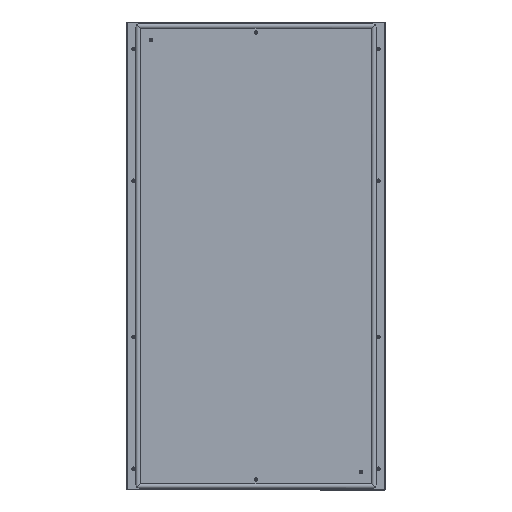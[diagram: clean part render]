
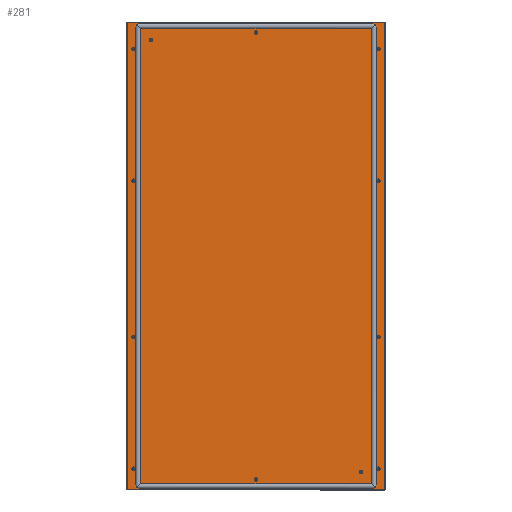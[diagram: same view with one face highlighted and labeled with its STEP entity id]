
A CAD part, top view. The second image highlights one B-rep face of the part: STEP entity #281.
In plain terms, the highlighted planar face has unit normal (0, 0, 1).
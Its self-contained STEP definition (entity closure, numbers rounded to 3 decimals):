
#281=ADVANCED_FACE('',(#1460,#1462,#1464,#1466,#1468,#1470,#1472,#1474,#1476,#1478,
#1480,#1482,#1484),#1486,.T.);
#1460=FACE_BOUND('',#1461,.T.);
#1461=EDGE_LOOP('',(#2761,#2762,#2763,#2764));
#1462=FACE_BOUND('',#1463,.T.);
#1463=EDGE_LOOP('',(#2765));
#1464=FACE_BOUND('',#1465,.T.);
#1465=EDGE_LOOP('',(#2766));
#1466=FACE_BOUND('',#1467,.T.);
#1467=EDGE_LOOP('',(#2767));
#1468=FACE_BOUND('',#1469,.T.);
#1469=EDGE_LOOP('',(#2768));
#1470=FACE_BOUND('',#1471,.T.);
#1471=EDGE_LOOP('',(#2769));
#1472=FACE_BOUND('',#1473,.T.);
#1473=EDGE_LOOP('',(#2770));
#1474=FACE_BOUND('',#1475,.T.);
#1475=EDGE_LOOP('',(#2771));
#1476=FACE_BOUND('',#1477,.T.);
#1477=EDGE_LOOP('',(#2772));
#1478=FACE_BOUND('',#1479,.T.);
#1479=EDGE_LOOP('',(#2773));
#1480=FACE_BOUND('',#1481,.T.);
#1481=EDGE_LOOP('',(#2774));
#1482=FACE_BOUND('',#1483,.T.);
#1483=EDGE_LOOP('',(#2775));
#1484=FACE_BOUND('',#1485,.T.);
#1485=EDGE_LOOP('',(#2776));
#1486=PLANE('',#1487);
#1487=AXIS2_PLACEMENT_3D('',#1488,#1489,#1490);
#1488=CARTESIAN_POINT('',(0.,0.,1.4));
#1489=DIRECTION('',(0.,0.,1.));
#1490=DIRECTION('',(1.,0.,0.));
#2761=ORIENTED_EDGE('',*,*,#3305,.F.);
#2762=ORIENTED_EDGE('',*,*,#3306,.F.);
#2763=ORIENTED_EDGE('',*,*,#3307,.F.);
#2764=ORIENTED_EDGE('',*,*,#3308,.F.);
#2765=ORIENTED_EDGE('',*,*,#3265,.F.);
#2766=ORIENTED_EDGE('',*,*,#3277,.F.);
#2767=ORIENTED_EDGE('',*,*,#3281,.F.);
#2768=ORIENTED_EDGE('',*,*,#3269,.F.);
#2769=ORIENTED_EDGE('',*,*,#3271,.F.);
#2770=ORIENTED_EDGE('',*,*,#3267,.F.);
#2771=ORIENTED_EDGE('',*,*,#3279,.F.);
#2772=ORIENTED_EDGE('',*,*,#3261,.F.);
#2773=ORIENTED_EDGE('',*,*,#3263,.F.);
#2774=ORIENTED_EDGE('',*,*,#3273,.F.);
#2775=ORIENTED_EDGE('',*,*,#3283,.F.);
#2776=ORIENTED_EDGE('',*,*,#3275,.F.);
#3261=EDGE_CURVE('',#3533,#3533,#3534,.T.);
#3263=EDGE_CURVE('',#3537,#3537,#3538,.T.);
#3265=EDGE_CURVE('',#3541,#3541,#3542,.T.);
#3267=EDGE_CURVE('',#3545,#3545,#3546,.T.);
#3269=EDGE_CURVE('',#3549,#3549,#3550,.T.);
#3271=EDGE_CURVE('',#3553,#3553,#3554,.T.);
#3273=EDGE_CURVE('',#3557,#3557,#3558,.T.);
#3275=EDGE_CURVE('',#3561,#3561,#3562,.T.);
#3277=EDGE_CURVE('',#3565,#3565,#3566,.T.);
#3279=EDGE_CURVE('',#3569,#3569,#3570,.T.);
#3281=EDGE_CURVE('',#3573,#3573,#3574,.T.);
#3283=EDGE_CURVE('',#3577,#3577,#3578,.T.);
#3305=EDGE_CURVE('',#3621,#3622,#3623,.T.);
#3306=EDGE_CURVE('',#3624,#3621,#3625,.T.);
#3307=EDGE_CURVE('',#3626,#3624,#3627,.T.);
#3308=EDGE_CURVE('',#3622,#3626,#3628,.T.);
#3533=VERTEX_POINT('',#3985);
#3534=CIRCLE('',#3986,0.5);
#3537=VERTEX_POINT('',#3995);
#3538=CIRCLE('',#3996,0.5);
#3541=VERTEX_POINT('',#4005);
#3542=CIRCLE('',#4006,6.75);
#3545=VERTEX_POINT('',#4015);
#3546=CIRCLE('',#4016,6.75);
#3549=VERTEX_POINT('',#4025);
#3550=CIRCLE('',#4026,6.75);
#3553=VERTEX_POINT('',#4035);
#3554=CIRCLE('',#4036,6.75);
#3557=VERTEX_POINT('',#4045);
#3558=CIRCLE('',#4046,6.75);
#3561=VERTEX_POINT('',#4055);
#3562=CIRCLE('',#4056,6.75);
#3565=VERTEX_POINT('',#4065);
#3566=CIRCLE('',#4066,6.75);
#3569=VERTEX_POINT('',#4075);
#3570=CIRCLE('',#4076,6.75);
#3573=VERTEX_POINT('',#4085);
#3574=CIRCLE('',#4086,6.75);
#3577=VERTEX_POINT('',#4095);
#3578=CIRCLE('',#4096,6.75);
#3621=VERTEX_POINT('',#4205);
#3622=VERTEX_POINT('',#4206);
#3623=LINE('',#4207,#4208);
#3624=VERTEX_POINT('',#4210);
#3625=LINE('',#4211,#4212);
#3626=VERTEX_POINT('',#4214);
#3627=LINE('',#4215,#4216);
#3628=LINE('',#4218,#4219);
#3985=CARTESIAN_POINT('',(-399.5,825.,1.4));
#3986=AXIS2_PLACEMENT_3D('',#3987,#3988,#3989);
#3987=CARTESIAN_POINT('',(-400.,825.,1.4));
#3988=DIRECTION('',(0.,0.,1.));
#3989=DIRECTION('',(-1.,0.,0.));
#3995=CARTESIAN_POINT('',(400.5,-825.,1.4));
#3996=AXIS2_PLACEMENT_3D('',#3997,#3998,#3999);
#3997=CARTESIAN_POINT('',(400.,-825.,1.4));
#3998=DIRECTION('',(0.,0.,1.));
#3999=DIRECTION('',(-1.,0.,0.));
#4005=CARTESIAN_POINT('',(473.75,789.25,1.4));
#4006=AXIS2_PLACEMENT_3D('',#4007,#4008,#4009);
#4007=CARTESIAN_POINT('',(467.,789.25,1.4));
#4008=DIRECTION('',(0.,0.,1.));
#4009=DIRECTION('',(-1.,0.,0.));
#4015=CARTESIAN_POINT('',(-460.25,-309.75,1.4));
#4016=AXIS2_PLACEMENT_3D('',#4017,#4018,#4019);
#4017=CARTESIAN_POINT('',(-467.,-309.75,1.4));
#4018=DIRECTION('',(0.,0.,1.));
#4019=DIRECTION('',(-1.,0.,0.));
#4025=CARTESIAN_POINT('',(473.75,-811.75,1.4));
#4026=AXIS2_PLACEMENT_3D('',#4027,#4028,#4029);
#4027=CARTESIAN_POINT('',(467.,-811.75,1.4));
#4028=DIRECTION('',(0.,0.,1.));
#4029=DIRECTION('',(-1.,0.,0.));
#4035=CARTESIAN_POINT('',(-460.25,-811.75,1.4));
#4036=AXIS2_PLACEMENT_3D('',#4037,#4038,#4039);
#4037=CARTESIAN_POINT('',(-467.,-811.75,1.4));
#4038=DIRECTION('',(0.,0.,1.));
#4039=DIRECTION('',(-1.,0.,0.));
#4045=CARTESIAN_POINT('',(6.75,853.,1.4));
#4046=AXIS2_PLACEMENT_3D('',#4047,#4048,#4049);
#4047=CARTESIAN_POINT('',(0.,853.,1.4));
#4048=DIRECTION('',(0.,0.,1.));
#4049=DIRECTION('',(-1.,0.,0.));
#4055=CARTESIAN_POINT('',(-460.25,789.25,1.4));
#4056=AXIS2_PLACEMENT_3D('',#4057,#4058,#4059);
#4057=CARTESIAN_POINT('',(-467.,789.25,1.4));
#4058=DIRECTION('',(0.,0.,1.));
#4059=DIRECTION('',(-1.,0.,0.));
#4065=CARTESIAN_POINT('',(473.75,287.25,1.4));
#4066=AXIS2_PLACEMENT_3D('',#4067,#4068,#4069);
#4067=CARTESIAN_POINT('',(467.,287.25,1.4));
#4068=DIRECTION('',(0.,0.,1.));
#4069=DIRECTION('',(-1.,0.,0.));
#4075=CARTESIAN_POINT('',(-460.25,287.25,1.4));
#4076=AXIS2_PLACEMENT_3D('',#4077,#4078,#4079);
#4077=CARTESIAN_POINT('',(-467.,287.25,1.4));
#4078=DIRECTION('',(0.,0.,1.));
#4079=DIRECTION('',(-1.,0.,0.));
#4085=CARTESIAN_POINT('',(473.75,-309.75,1.4));
#4086=AXIS2_PLACEMENT_3D('',#4087,#4088,#4089);
#4087=CARTESIAN_POINT('',(467.,-309.75,1.4));
#4088=DIRECTION('',(0.,0.,1.));
#4089=DIRECTION('',(-1.,0.,0.));
#4095=CARTESIAN_POINT('',(6.75,-853.,1.4));
#4096=AXIS2_PLACEMENT_3D('',#4097,#4098,#4099);
#4097=CARTESIAN_POINT('',(0.,-853.,1.4));
#4098=DIRECTION('',(0.,0.,1.));
#4099=DIRECTION('',(-1.,0.,0.));
#4205=CARTESIAN_POINT('',(489.8,889.8,1.4));
#4206=CARTESIAN_POINT('',(489.8,-889.8,1.4));
#4207=CARTESIAN_POINT('',(489.8,889.8,1.4));
#4208=VECTOR('',#4209,1.);
#4209=DIRECTION('',(0.,-1.,0.));
#4210=CARTESIAN_POINT('',(-489.8,889.8,1.4));
#4211=CARTESIAN_POINT('',(-489.8,889.8,1.4));
#4212=VECTOR('',#4213,1.);
#4213=DIRECTION('',(1.,0.,0.));
#4214=CARTESIAN_POINT('',(-489.8,-889.8,1.4));
#4215=CARTESIAN_POINT('',(-489.8,-889.8,1.4));
#4216=VECTOR('',#4217,1.);
#4217=DIRECTION('',(0.,1.,0.));
#4218=CARTESIAN_POINT('',(489.8,-889.8,1.4));
#4219=VECTOR('',#4220,1.);
#4220=DIRECTION('',(-1.,0.,0.));
